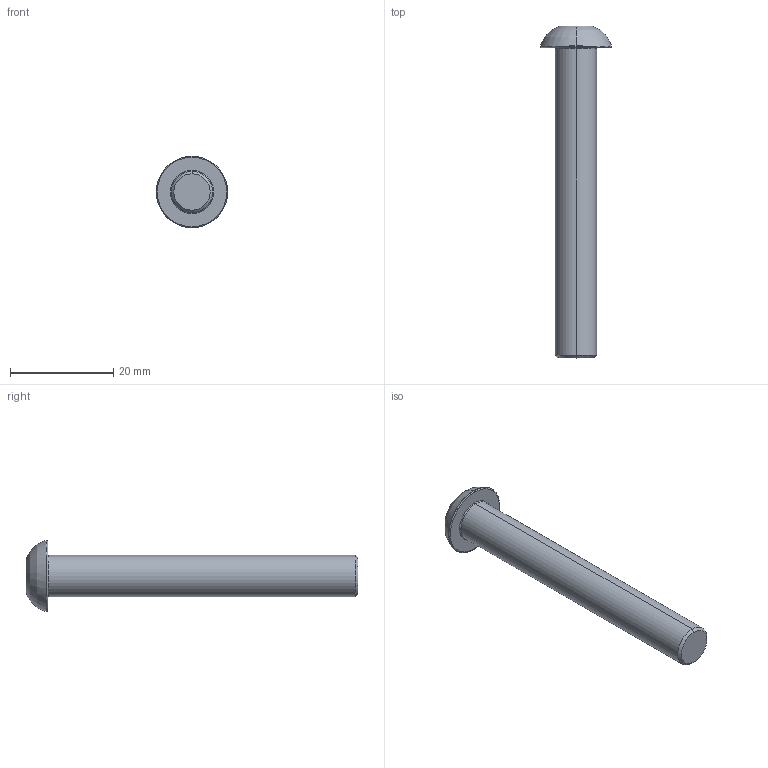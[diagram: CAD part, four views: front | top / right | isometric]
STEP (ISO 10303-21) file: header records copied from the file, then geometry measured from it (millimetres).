
FILE_DESCRIPTION (( 'STEP AP203' ), '1' );
FILE_NAME ('LGDD-304-M8x60.STEP', '2026-08-08T05:07:52', ( '' ), ( '' ), 'SwSTEP 2.0', 'SolidWorks 2020', '' );
FILE_SCHEMA (( 'CONFIG_CONTROL_DESIGN' ));
Length unit declared in the file: millimetre
Products named in the file (1): LGDD-304-M8x60
Bounding box: 13.8 x 64.2 x 13.8 mm (x, y, z)
Volume: 3389.6 mm3; surface area: 1938 mm2
Topology: 1 solids, 1 shells, 31 faces, 59 edges, 32 vertices
Faces by surface type: plane 10, cone 9, torus 8, cylinder 4
Entity records: 860 total; most frequent: CARTESIAN_POINT 150, DIRECTION 149, ORIENTED_EDGE 118, AXIS2_PLACEMENT_3D 65, EDGE_CURVE 59, EDGE_LOOP 33, CIRCLE 33, VERTEX_POINT 32
